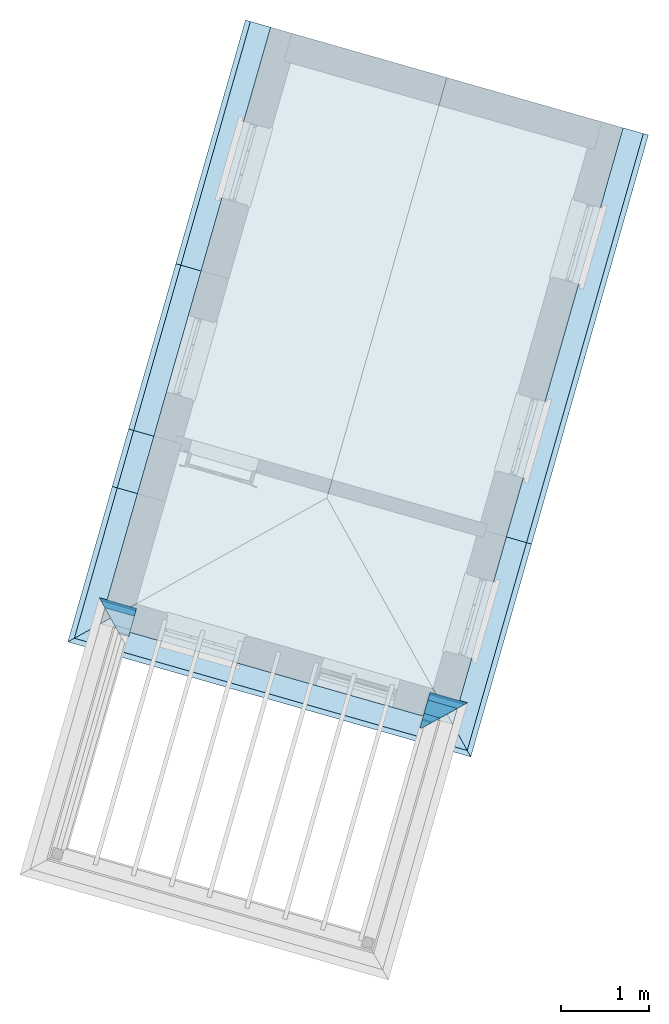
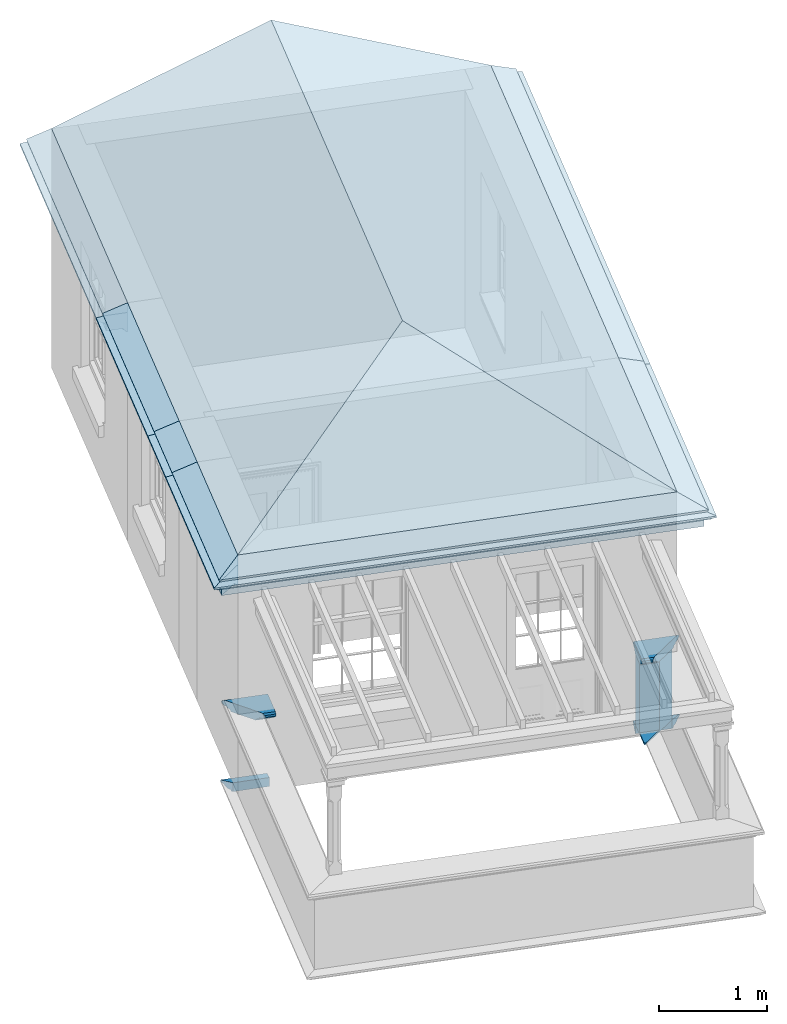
# One storey, part 4 of 4: 15 roofs, 5 walls.
"""IFC4 building model written with IfcOpenShell, lengths in metres."""

from ifc_helpers import new_model, si_unit, frame, origin, origin_with_axes, place, context, subcontext, project, spatial, polyline, outline, extrude, clip, halfspace, faceted_brep, material_profile, profile_set, profile_usage, type_object, element, save


model = new_model("IFC4")

# Units and contexts
model_context = context("Model", 3, world=origin_with_axes())
body_context = subcontext(model_context, "Body", "Model", "MODEL_VIEW")
ifc_project = project(units=[si_unit("PLANEANGLEUNIT", "RADIAN"), si_unit("MASSUNIT", "GRAM", prefix="KILO"), si_unit("FORCEUNIT", "NEWTON", prefix="KILO"), si_unit("LENGTHUNIT", "METRE"), si_unit("AREAUNIT", "SQUARE_METRE"), si_unit("VOLUMEUNIT", "CUBIC_METRE")], contexts=[model_context, model_context])

# Sites, building, storey
site_1_placement = place(None, origin_with_axes())
site_1 = spatial("IfcSite", under=ifc_project, at=site_1_placement, Name="Tamar")
site_2_placement = place(site_1_placement, origin_with_axes())
site_2 = spatial("IfcSite", under=site_1, at=site_2_placement, Name="Site plot-20", CompositionType="ELEMENT")
building_placement = place(None, origin_with_axes())
building = spatial("IfcBuilding", under=site_2, at=building_placement, Name="Building plot-20", CompositionType="ELEMENT")
storey_placement = place(None, frame((0.0, 0.0, 31.85), z_axis=(0.0, 0.0, 1.0), x_axis=(1.0, 0.0, 0.0)))
storey = spatial("IfcBuildingStorey", under=building, at=storey_placement, Name="plot-20 2", CompositionType="ELEMENT", Elevation=31.85)

# Walls
ifc_material_profile_1 = material_profile(None, outline(polyline([(0.25, 0.0), (0.25, 0.795), (0.09, 0.795), (0.09, 0.02), (-0.08, 0.02), (-0.08, 0.0), (0.25, 0.0)])))
ifc_profile_set_1 = profile_set([ifc_material_profile_1])
ifc_profile_usage_1 = profile_usage(ifc_profile_set_1)
wall_type_1 = type_object("IfcWallType", Name="parapet_0", PredefinedType="PARAPET", material=ifc_profile_set_1)
wall_1_placement = place(storey_placement, frame((279.446361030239, 286.542213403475, 0.0), z_axis=(0.961567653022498, -0.274568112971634, 0.0), x_axis=(0.274568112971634, 0.961567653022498, 0.0)))
element("IfcWall", 1, at=wall_1_placement, inside=storey, type_object=wall_type_1, material=ifc_profile_usage_1, Name="parapet_0", context=body_context, shape_type="Clipping", body=[
    clip(clip(extrude(outline(polyline([(0.25, 0.0), (0.25, 0.795), (0.09, 0.795), (0.09, 0.02), (-0.08, 0.02), (-0.08, 0.0), (0.25, 0.0)])), origin_with_axes(), (0.0, 0.0, 1.0), 2.09999999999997), halfspace(frame((0.0, 0.0, 1.09999999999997), z_axis=(0.707106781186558, 0.0, -0.707106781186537), x_axis=(0.0, 1.0, 0.0)), True)), halfspace(frame((0.0, 0.0, 1.0), z_axis=(-8.05483811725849e-15, 0.0, -1.0), x_axis=(0.0, 1.0, 0.0)), False)),
])
ifc_material_profile_2 = material_profile(None, outline(polyline([(0.265, 0.795), (0.268, 0.807), (0.274, 0.816), (0.283, 0.822), (0.295, 0.825), (0.295, 0.84), (0.305, 0.84), (0.317, 0.842), (0.326, 0.849), (0.333, 0.858), (0.335, 0.87), (0.333, 0.882), (0.326, 0.891), (0.317, 0.898), (0.305, 0.9), (0.035, 0.9), (0.023, 0.898), (0.014, 0.891), (0.007, 0.882), (0.005, 0.87), (0.007, 0.858), (0.014, 0.849), (0.023, 0.842), (0.035, 0.84), (0.045, 0.84), (0.045, 0.825), (0.057, 0.822), (0.066, 0.816), (0.072, 0.807), (0.075, 0.795), (0.265, 0.795)])))
ifc_profile_set_2 = profile_set([ifc_material_profile_2])
ifc_profile_usage_2 = profile_usage(ifc_profile_set_2)
wall_type_2 = type_object("IfcWallType", Name="parapet_1", PredefinedType="PARAPET", material=ifc_profile_set_2)
wall_2_placement = place(storey_placement, frame((275.997440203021, 287.527025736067, 0.0), z_axis=(0.961567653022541, -0.274568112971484, 0.0), x_axis=(0.274568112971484, 0.961567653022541, 0.0)))
element("IfcWall", 2, at=wall_2_placement, inside=storey, type_object=wall_type_2, material=ifc_profile_usage_2, Name="parapet_1", context=body_context, shape_type="Clipping", body=[
    clip(clip(extrude(outline(polyline([(0.265, 0.795), (0.268, 0.807), (0.274, 0.816), (0.283, 0.822), (0.295, 0.825), (0.295, 0.84), (0.305, 0.84), (0.317, 0.842), (0.326, 0.849), (0.333, 0.858), (0.335, 0.87), (0.333, 0.882), (0.326, 0.891), (0.317, 0.898), (0.305, 0.9), (0.035, 0.9), (0.023, 0.898), (0.014, 0.891), (0.007, 0.882), (0.005, 0.87), (0.007, 0.858), (0.014, 0.849), (0.023, 0.842), (0.035, 0.84), (0.045, 0.84), (0.045, 0.825), (0.057, 0.822), (0.066, 0.816), (0.072, 0.807), (0.075, 0.795), (0.265, 0.795)])), origin_with_axes(), (0.0, 0.0, 1.0), 2.10000000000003), halfspace(frame((0.0, 0.0, 1.10000000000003), z_axis=(2.3919584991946e-14, 0.0, -1.0), x_axis=(0.0, 1.0, 0.0)), True)), halfspace(frame((0.0, 0.0, 1.0), z_axis=(-0.707106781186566, 0.0, -0.707106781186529), x_axis=(0.0, 1.0, 0.0)), False)),
])
ifc_profile_usage_3 = profile_usage(ifc_profile_set_2)
wall_3_placement = place(storey_placement, frame((279.446361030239, 286.542213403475, 0.0), z_axis=(0.961567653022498, -0.274568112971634, 0.0), x_axis=(0.274568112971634, 0.961567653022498, 0.0)))
element("IfcWall", 3, at=wall_3_placement, inside=storey, type_object=wall_type_2, material=ifc_profile_usage_3, Name="parapet_1", context=body_context, shape_type="Clipping", body=[
    clip(clip(extrude(outline(polyline([(0.265, 0.795), (0.268, 0.807), (0.274, 0.816), (0.283, 0.822), (0.295, 0.825), (0.295, 0.84), (0.305, 0.84), (0.317, 0.842), (0.326, 0.849), (0.333, 0.858), (0.335, 0.87), (0.333, 0.882), (0.326, 0.891), (0.317, 0.898), (0.305, 0.9), (0.035, 0.9), (0.023, 0.898), (0.014, 0.891), (0.007, 0.882), (0.005, 0.87), (0.007, 0.858), (0.014, 0.849), (0.023, 0.842), (0.035, 0.84), (0.045, 0.84), (0.045, 0.825), (0.057, 0.822), (0.066, 0.816), (0.072, 0.807), (0.075, 0.795), (0.265, 0.795)])), origin_with_axes(), (0.0, 0.0, 1.0), 2.09999999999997), halfspace(frame((0.0, 0.0, 1.09999999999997), z_axis=(0.707106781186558, 0.0, -0.707106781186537), x_axis=(0.0, 1.0, 0.0)), True)), halfspace(frame((0.0, 0.0, 1.0), z_axis=(-8.05483811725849e-15, 0.0, -1.0), x_axis=(0.0, 1.0, 0.0)), False)),
])
ifc_material_profile_3 = material_profile(None, outline(polyline([(0.25, -0.1), (0.265, -0.1), (0.265, -0.085), (0.278, -0.084), (0.289, -0.081), (0.301, -0.074), (0.309, -0.065), (0.315, -0.055), (0.324, -0.044), (0.334, -0.038), (0.345, -0.035), (0.345, -0.015), (0.25, 0.0), (0.25, -0.1)])))
ifc_profile_set_3 = profile_set([ifc_material_profile_3])
ifc_profile_usage_4 = profile_usage(ifc_profile_set_3)
wall_type_3 = type_object("IfcWallType", Name="parapet_2", PredefinedType="PARAPET", material=ifc_profile_set_3)
wall_4_placement = place(storey_placement, frame((275.997440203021, 287.527025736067, 0.0), z_axis=(0.961567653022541, -0.274568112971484, 0.0), x_axis=(0.274568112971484, 0.961567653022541, 0.0)))
element("IfcWall", 4, at=wall_4_placement, inside=storey, type_object=wall_type_3, material=ifc_profile_usage_4, Name="parapet_2", context=body_context, shape_type="Clipping", body=[
    clip(clip(extrude(outline(polyline([(0.25, -0.1), (0.265, -0.1), (0.265, -0.085), (0.278, -0.084), (0.289, -0.081), (0.301, -0.074), (0.309, -0.065), (0.315, -0.055), (0.324, -0.044), (0.334, -0.038), (0.345, -0.035), (0.345, -0.015), (0.25, 0.0), (0.25, -0.1)])), origin_with_axes(), (0.0, 0.0, 1.0), 2.10000000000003), halfspace(frame((0.0, 0.0, 1.10000000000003), z_axis=(2.3919584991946e-14, 0.0, -1.0), x_axis=(0.0, 1.0, 0.0)), True)), halfspace(frame((0.0, 0.0, 1.0), z_axis=(-0.707106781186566, 0.0, -0.707106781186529), x_axis=(0.0, 1.0, 0.0)), False)),
])
ifc_profile_usage_5 = profile_usage(ifc_profile_set_3)
wall_5_placement = place(storey_placement, frame((279.446361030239, 286.542213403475, 0.0), z_axis=(0.961567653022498, -0.274568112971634, 0.0), x_axis=(0.274568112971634, 0.961567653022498, 0.0)))
element("IfcWall", 5, at=wall_5_placement, inside=storey, type_object=wall_type_3, material=ifc_profile_usage_5, Name="parapet_2", context=body_context, shape_type="Clipping", body=[
    clip(clip(extrude(outline(polyline([(0.25, -0.1), (0.265, -0.1), (0.265, -0.085), (0.278, -0.084), (0.289, -0.081), (0.301, -0.074), (0.309, -0.065), (0.315, -0.055), (0.324, -0.044), (0.334, -0.038), (0.345, -0.035), (0.345, -0.015), (0.25, 0.0), (0.25, -0.1)])), origin_with_axes(), (0.0, 0.0, 1.0), 2.09999999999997), halfspace(frame((0.0, 0.0, 1.09999999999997), z_axis=(0.707106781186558, 0.0, -0.707106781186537), x_axis=(0.0, 1.0, 0.0)), True)), halfspace(frame((0.0, 0.0, 1.0), z_axis=(-8.05483811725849e-15, 0.0, -1.0), x_axis=(0.0, 1.0, 0.0)), False)),
])

# Roofs
ifc_material_profile_4 = material_profile(None, outline(polyline([(0.25, -0.11), (0.25, -0.33), (0.265, -0.33), (0.268, -0.318), (0.274, -0.309), (0.283, -0.303), (0.295, -0.3), (0.295, -0.285), (0.455, -0.285), (0.455, -0.205), (0.47, -0.205), (0.47, -0.19), (0.483, -0.189), (0.494, -0.186), (0.506, -0.179), (0.514, -0.17), (0.52, -0.16), (0.529, -0.149), (0.539, -0.143), (0.55, -0.14), (0.55, -0.12), (0.48, -0.11), (0.25, -0.11)])))
ifc_profile_set_4 = profile_set([ifc_material_profile_4])
ifc_profile_usage_6 = profile_usage(ifc_profile_set_4)
roof_type_1 = type_object("IfcRoofType", Name="eaves_0", PredefinedType="FREEFORM", material=ifc_profile_set_4)
roof_1_placement = place(storey_placement, frame((277.851782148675, 290.379051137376, 2.7), z_axis=(0.274568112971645, 0.961567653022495, 0.0), x_axis=(-0.961567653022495, 0.274568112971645, 0.0)))
element("IfcRoof", 6, at=roof_1_placement, inside=storey, type_object=roof_type_1, material=ifc_profile_usage_6, Name="eaves_0", context=body_context, shape_type="Clipping", body=[
    clip(clip(extrude(outline(polyline([(0.25, -0.11), (0.25, -0.33), (0.265, -0.33), (0.268, -0.318), (0.274, -0.309), (0.283, -0.303), (0.295, -0.3), (0.295, -0.285), (0.455, -0.285), (0.455, -0.205), (0.47, -0.205), (0.47, -0.19), (0.483, -0.189), (0.494, -0.186), (0.506, -0.179), (0.514, -0.17), (0.52, -0.16), (0.529, -0.149), (0.539, -0.143), (0.55, -0.14), (0.55, -0.12), (0.48, -0.11), (0.25, -0.11)])), origin_with_axes(), (0.0, 0.0, 1.0), 4.89537764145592), halfspace(frame((0.0, 0.0, 3.89537764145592), z_axis=(-1.96011575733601e-14, 0.0, -1.0), x_axis=(0.0, 1.0, 0.0)), True)), halfspace(frame((0.0, 0.0, 1.0), z_axis=(-1.96011575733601e-14, 0.0, -1.0), x_axis=(0.0, 1.0, 0.0)), False)),
])
ifc_profile_usage_7 = profile_usage(ifc_profile_set_4)
roof_2_placement = place(storey_placement, frame((277.312701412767, 288.491131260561, 2.7), z_axis=(0.274568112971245, 0.961567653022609, 0.0), x_axis=(-0.961567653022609, 0.274568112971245, 0.0)))
element("IfcRoof", 7, at=roof_2_placement, inside=storey, type_object=roof_type_1, material=ifc_profile_usage_7, Name="eaves_0", context=body_context, shape_type="Clipping", body=[
    clip(clip(extrude(outline(polyline([(0.25, -0.11), (0.25, -0.33), (0.265, -0.33), (0.268, -0.318), (0.274, -0.309), (0.283, -0.303), (0.295, -0.3), (0.295, -0.285), (0.455, -0.285), (0.455, -0.205), (0.47, -0.205), (0.47, -0.19), (0.483, -0.189), (0.494, -0.186), (0.506, -0.179), (0.514, -0.17), (0.52, -0.16), (0.529, -0.149), (0.539, -0.143), (0.55, -0.14), (0.55, -0.12), (0.48, -0.11), (0.25, -0.11)])), origin_with_axes(), (0.0, 0.0, 1.0), 3.96337706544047), halfspace(frame((0.0, 0.0, 2.96337706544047), z_axis=(3.96954521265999e-13, 0.0, -1.0), x_axis=(0.0, 1.0, 0.0)), True)), halfspace(frame((0.0, 0.0, 1.0), z_axis=(-1.69366223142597e-14, 0.0, -1.0), x_axis=(0.0, 1.0, 0.0)), False)),
])
ifc_profile_usage_8 = profile_usage(ifc_profile_set_4)
roof_3_placement = place(storey_placement, frame((277.125445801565, 287.835341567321, 2.7), z_axis=(0.274568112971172, 0.96156765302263, 0.0), x_axis=(-0.96156765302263, 0.274568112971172, 0.0)))
element("IfcRoof", 8, at=roof_3_placement, inside=storey, type_object=roof_type_1, material=ifc_profile_usage_8, Name="eaves_0", context=body_context, shape_type="Clipping", body=[
    clip(clip(extrude(outline(polyline([(0.25, -0.11), (0.25, -0.33), (0.265, -0.33), (0.268, -0.318), (0.274, -0.309), (0.283, -0.303), (0.295, -0.3), (0.295, -0.285), (0.455, -0.285), (0.455, -0.205), (0.47, -0.205), (0.47, -0.19), (0.483, -0.189), (0.494, -0.186), (0.506, -0.179), (0.514, -0.17), (0.52, -0.16), (0.529, -0.149), (0.539, -0.143), (0.55, -0.14), (0.55, -0.12), (0.48, -0.11), (0.25, -0.11)])), origin_with_axes(), (0.0, 0.0, 1.0), 2.68200057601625), halfspace(frame((0.0, 0.0, 1.68200057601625), z_axis=(5.85585433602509e-14, 0.0, -1.0), x_axis=(0.0, 1.0, 0.0)), True)), halfspace(frame((0.0, 0.0, 1.0), z_axis=(-1.24957302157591e-14, 0.0, -1.0), x_axis=(0.0, 1.0, 0.0)), False)),
])
ifc_profile_usage_9 = profile_usage(ifc_profile_set_4)
roof_4_placement = place(storey_placement, frame((276.769555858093, 286.58897594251, 2.7), z_axis=(0.274568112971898, 0.961567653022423, 0.0), x_axis=(-0.961567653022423, 0.274568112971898, 0.0)))
element("IfcRoof", 9, at=roof_4_placement, inside=storey, type_object=roof_type_1, material=ifc_profile_usage_9, Name="eaves_0", context=body_context, shape_type="Clipping", body=[
    clip(clip(extrude(outline(polyline([(0.25, -0.11), (0.25, -0.33), (0.265, -0.33), (0.268, -0.318), (0.274, -0.309), (0.283, -0.303), (0.295, -0.3), (0.295, -0.285), (0.455, -0.285), (0.455, -0.205), (0.47, -0.205), (0.47, -0.19), (0.483, -0.189), (0.494, -0.186), (0.506, -0.179), (0.514, -0.17), (0.52, -0.16), (0.529, -0.149), (0.539, -0.143), (0.55, -0.14), (0.55, -0.12), (0.48, -0.11), (0.25, -0.11)])), origin_with_axes(), (0.0, 0.0, 1.0), 3.29618089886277), halfspace(frame((0.0, 0.0, 2.29618089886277), z_axis=(-7.67447386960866e-13, 0.0, -1.0), x_axis=(0.0, 1.0, 0.0)), True)), halfspace(frame((0.0, 0.0, 1.0), z_axis=(-0.707106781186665, 0.0, -0.70710678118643), x_axis=(0.0, 1.0, 0.0)), False)),
])
ifc_profile_usage_10 = profile_usage(ifc_profile_set_4)
roof_5_placement = place(storey_placement, frame((281.550769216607, 286.263706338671, 2.7), z_axis=(-0.961567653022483, 0.274568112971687, 0.0), x_axis=(-0.274568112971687, -0.961567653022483, 0.0)))
element("IfcRoof", 10, at=roof_5_placement, inside=storey, type_object=roof_type_1, material=ifc_profile_usage_10, Name="eaves_0", context=body_context, shape_type="Clipping", body=[
    clip(clip(extrude(outline(polyline([(0.25, -0.11), (0.25, -0.33), (0.265, -0.33), (0.268, -0.318), (0.274, -0.309), (0.283, -0.303), (0.295, -0.3), (0.295, -0.285), (0.455, -0.285), (0.455, -0.205), (0.47, -0.205), (0.47, -0.19), (0.483, -0.189), (0.494, -0.186), (0.506, -0.179), (0.514, -0.17), (0.52, -0.16), (0.529, -0.149), (0.539, -0.143), (0.55, -0.14), (0.55, -0.12), (0.48, -0.11), (0.25, -0.11)])), origin_with_axes(), (0.0, 0.0, 1.0), 5.68676876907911), halfspace(frame((0.0, 0.0, 4.68676876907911), z_axis=(0.707106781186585, 0.0, -0.707106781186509), x_axis=(0.0, 1.0, 0.0)), True)), halfspace(frame((0.0, 0.0, 1.0), z_axis=(-0.707106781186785, 0.0, -0.70710678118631), x_axis=(0.0, 1.0, 0.0)), False)),
])
ifc_profile_usage_11 = profile_usage(ifc_profile_set_4)
roof_6_placement = place(storey_placement, frame((281.406915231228, 289.401997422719, 2.7), z_axis=(-0.274568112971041, -0.961567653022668, 0.0), x_axis=(0.961567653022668, -0.274568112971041, 0.0)))
element("IfcRoof", 11, at=roof_6_placement, inside=storey, type_object=roof_type_1, material=ifc_profile_usage_11, Name="eaves_0", context=body_context, shape_type="Clipping", body=[
    clip(clip(extrude(outline(polyline([(0.25, -0.11), (0.25, -0.33), (0.265, -0.33), (0.268, -0.318), (0.274, -0.309), (0.283, -0.303), (0.295, -0.3), (0.295, -0.285), (0.455, -0.285), (0.455, -0.205), (0.47, -0.205), (0.47, -0.19), (0.483, -0.189), (0.494, -0.186), (0.506, -0.179), (0.514, -0.17), (0.52, -0.16), (0.529, -0.149), (0.539, -0.143), (0.55, -0.14), (0.55, -0.12), (0.48, -0.11), (0.25, -0.11)])), origin_with_axes(), (0.0, 0.0, 1.0), 3.97818147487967), halfspace(frame((0.0, 0.0, 2.97818147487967), z_axis=(0.707106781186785, 0.0, -0.70710678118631), x_axis=(0.0, 1.0, 0.0)), True)), halfspace(frame((0.0, 0.0, 1.0), z_axis=(1.59259792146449e-14, 0.0, -1.0), x_axis=(0.0, 1.0, 0.0)), False)),
])
ifc_profile_usage_12 = profile_usage(ifc_profile_set_4)
roof_7_placement = place(storey_placement, frame((282.740974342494, 294.074018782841, 2.7), z_axis=(-0.274568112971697, -0.961567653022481, 0.0), x_axis=(0.961567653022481, -0.274568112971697, 0.0)))
element("IfcRoof", 12, at=roof_7_placement, inside=storey, type_object=roof_type_1, material=ifc_profile_usage_12, Name="eaves_0", context=body_context, shape_type="Clipping", body=[
    clip(clip(extrude(outline(polyline([(0.25, -0.11), (0.25, -0.33), (0.265, -0.33), (0.268, -0.318), (0.274, -0.309), (0.283, -0.303), (0.295, -0.3), (0.295, -0.285), (0.455, -0.285), (0.455, -0.205), (0.47, -0.205), (0.47, -0.19), (0.483, -0.189), (0.494, -0.186), (0.506, -0.179), (0.514, -0.17), (0.52, -0.16), (0.529, -0.149), (0.539, -0.143), (0.55, -0.14), (0.55, -0.12), (0.48, -0.11), (0.25, -0.11)])), origin_with_axes(), (0.0, 0.0, 1.0), 6.85875470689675), halfspace(frame((0.0, 0.0, 5.85875470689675), z_axis=(-6.66639136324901e-13, 0.0, -1.0), x_axis=(0.0, 1.0, 0.0)), True)), halfspace(frame((0.0, 0.0, 1.0), z_axis=(-1.871297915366e-14, 0.0, -1.0), x_axis=(0.0, 1.0, 0.0)), False)),
])
ifc_material_profile_5 = material_profile(None, outline(polyline([(0.25, -0.11), (0.48, -0.11), (0.49, -0.08), (0.25, 0.0), (0.25, -0.11)])))
ifc_profile_set_5 = profile_set([ifc_material_profile_5])
ifc_profile_usage_13 = profile_usage(ifc_profile_set_5)
roof_type_2 = type_object("IfcRoofType", Name="eaves_1", PredefinedType="FREEFORM", material=ifc_profile_set_5)
roof_8_placement = place(storey_placement, frame((277.851782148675, 290.379051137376, 2.7), z_axis=(0.274568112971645, 0.961567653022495, 0.0), x_axis=(-0.961567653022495, 0.274568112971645, 0.0)))
element("IfcRoof", 13, at=roof_8_placement, inside=storey, type_object=roof_type_2, material=ifc_profile_usage_13, Name="eaves_1", context=body_context, shape_type="Clipping", body=[
    clip(clip(extrude(outline(polyline([(0.25, -0.11), (0.48, -0.11), (0.49, -0.08), (0.25, 0.0), (0.25, -0.11)])), origin_with_axes(), (0.0, 0.0, 1.0), 4.89537764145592), halfspace(frame((0.0, 0.0, 3.89537764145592), z_axis=(-1.96011575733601e-14, 0.0, -1.0), x_axis=(0.0, 1.0, 0.0)), True)), halfspace(frame((0.0, 0.0, 1.0), z_axis=(-1.96011575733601e-14, 0.0, -1.0), x_axis=(0.0, 1.0, 0.0)), False)),
])
ifc_profile_usage_14 = profile_usage(ifc_profile_set_5)
roof_9_placement = place(storey_placement, frame((277.312701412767, 288.491131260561, 2.7), z_axis=(0.274568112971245, 0.961567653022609, 0.0), x_axis=(-0.961567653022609, 0.274568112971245, 0.0)))
element("IfcRoof", 14, at=roof_9_placement, inside=storey, type_object=roof_type_2, material=ifc_profile_usage_14, Name="eaves_1", context=body_context, shape_type="Clipping", body=[
    clip(clip(extrude(outline(polyline([(0.25, -0.11), (0.48, -0.11), (0.49, -0.08), (0.25, 0.0), (0.25, -0.11)])), origin_with_axes(), (0.0, 0.0, 1.0), 3.96337706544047), halfspace(frame((0.0, 0.0, 2.96337706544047), z_axis=(3.96954521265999e-13, 0.0, -1.0), x_axis=(0.0, 1.0, 0.0)), True)), halfspace(frame((0.0, 0.0, 1.0), z_axis=(-1.69366223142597e-14, 0.0, -1.0), x_axis=(0.0, 1.0, 0.0)), False)),
])
ifc_profile_usage_15 = profile_usage(ifc_profile_set_5)
roof_10_placement = place(storey_placement, frame((277.125445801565, 287.835341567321, 2.7), z_axis=(0.274568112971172, 0.96156765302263, 0.0), x_axis=(-0.96156765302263, 0.274568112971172, 0.0)))
element("IfcRoof", 15, at=roof_10_placement, inside=storey, type_object=roof_type_2, material=ifc_profile_usage_15, Name="eaves_1", context=body_context, shape_type="Clipping", body=[
    clip(clip(extrude(outline(polyline([(0.25, -0.11), (0.48, -0.11), (0.49, -0.08), (0.25, 0.0), (0.25, -0.11)])), origin_with_axes(), (0.0, 0.0, 1.0), 2.68200057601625), halfspace(frame((0.0, 0.0, 1.68200057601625), z_axis=(5.85585433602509e-14, 0.0, -1.0), x_axis=(0.0, 1.0, 0.0)), True)), halfspace(frame((0.0, 0.0, 1.0), z_axis=(-1.24957302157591e-14, 0.0, -1.0), x_axis=(0.0, 1.0, 0.0)), False)),
])
ifc_profile_usage_16 = profile_usage(ifc_profile_set_5)
roof_11_placement = place(storey_placement, frame((276.769555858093, 286.58897594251, 2.7), z_axis=(0.274568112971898, 0.961567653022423, 0.0), x_axis=(-0.961567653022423, 0.274568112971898, 0.0)))
element("IfcRoof", 16, at=roof_11_placement, inside=storey, type_object=roof_type_2, material=ifc_profile_usage_16, Name="eaves_1", context=body_context, shape_type="Clipping", body=[
    clip(clip(extrude(outline(polyline([(0.25, -0.11), (0.48, -0.11), (0.49, -0.08), (0.25, 0.0), (0.25, -0.11)])), origin_with_axes(), (0.0, 0.0, 1.0), 3.29618089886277), halfspace(frame((0.0, 0.0, 2.29618089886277), z_axis=(-7.67447386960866e-13, 0.0, -1.0), x_axis=(0.0, 1.0, 0.0)), True)), halfspace(frame((0.0, 0.0, 1.0), z_axis=(-0.707106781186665, 0.0, -0.70710678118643), x_axis=(0.0, 1.0, 0.0)), False)),
])
ifc_profile_usage_17 = profile_usage(ifc_profile_set_5)
roof_12_placement = place(storey_placement, frame((281.550769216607, 286.263706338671, 2.7), z_axis=(-0.961567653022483, 0.274568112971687, 0.0), x_axis=(-0.274568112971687, -0.961567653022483, 0.0)))
element("IfcRoof", 17, at=roof_12_placement, inside=storey, type_object=roof_type_2, material=ifc_profile_usage_17, Name="eaves_1", context=body_context, shape_type="Clipping", body=[
    clip(clip(extrude(outline(polyline([(0.25, -0.11), (0.48, -0.11), (0.49, -0.08), (0.25, 0.0), (0.25, -0.11)])), origin_with_axes(), (0.0, 0.0, 1.0), 5.68676876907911), halfspace(frame((0.0, 0.0, 4.68676876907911), z_axis=(0.707106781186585, 0.0, -0.707106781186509), x_axis=(0.0, 1.0, 0.0)), True)), halfspace(frame((0.0, 0.0, 1.0), z_axis=(-0.707106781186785, 0.0, -0.70710678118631), x_axis=(0.0, 1.0, 0.0)), False)),
])
ifc_profile_usage_18 = profile_usage(ifc_profile_set_5)
roof_13_placement = place(storey_placement, frame((281.406915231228, 289.401997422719, 2.7), z_axis=(-0.274568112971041, -0.961567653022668, 0.0), x_axis=(0.961567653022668, -0.274568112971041, 0.0)))
element("IfcRoof", 18, at=roof_13_placement, inside=storey, type_object=roof_type_2, material=ifc_profile_usage_18, Name="eaves_1", context=body_context, shape_type="Clipping", body=[
    clip(clip(extrude(outline(polyline([(0.25, -0.11), (0.48, -0.11), (0.49, -0.08), (0.25, 0.0), (0.25, -0.11)])), origin_with_axes(), (0.0, 0.0, 1.0), 3.97818147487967), halfspace(frame((0.0, 0.0, 2.97818147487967), z_axis=(0.707106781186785, 0.0, -0.70710678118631), x_axis=(0.0, 1.0, 0.0)), True)), halfspace(frame((0.0, 0.0, 1.0), z_axis=(1.59259792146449e-14, 0.0, -1.0), x_axis=(0.0, 1.0, 0.0)), False)),
])
ifc_profile_usage_19 = profile_usage(ifc_profile_set_5)
roof_14_placement = place(storey_placement, frame((282.740974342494, 294.074018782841, 2.7), z_axis=(-0.274568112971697, -0.961567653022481, 0.0), x_axis=(0.961567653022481, -0.274568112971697, 0.0)))
element("IfcRoof", 19, at=roof_14_placement, inside=storey, type_object=roof_type_2, material=ifc_profile_usage_19, Name="eaves_1", context=body_context, shape_type="Clipping", body=[
    clip(clip(extrude(outline(polyline([(0.25, -0.11), (0.48, -0.11), (0.49, -0.08), (0.25, 0.0), (0.25, -0.11)])), origin_with_axes(), (0.0, 0.0, 1.0), 6.85875470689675), halfspace(frame((0.0, 0.0, 5.85875470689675), z_axis=(-6.66639136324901e-13, 0.0, -1.0), x_axis=(0.0, 1.0, 0.0)), True)), halfspace(frame((0.0, 0.0, 1.0), z_axis=(-1.871297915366e-14, 0.0, -1.0), x_axis=(0.0, 1.0, 0.0)), False)),
])
roof_15_placement = place(building_placement, origin())
element("IfcRoof", 20, at=roof_15_placement, inside=storey, Name="Roof", PredefinedType="FREEFORM", context=body_context, shape_type="Brep", body=[
    faceted_brep([(280.760951, 286.229241, 34.55), (282.706798, 293.043809, 34.55), (280.693867, 293.618586, 35.417108), (279.322797, 288.816948, 35.417108), (278.680937, 294.193362, 34.55), (276.73509, 287.378794, 34.55)], [[[0, 1, 2, 3]], [[4, 5, 3, 2]], [[5, 4, 1, 0]], [[5, 0, 3]], [[1, 4, 2]]]),
])

save(model, "model.ifc")
